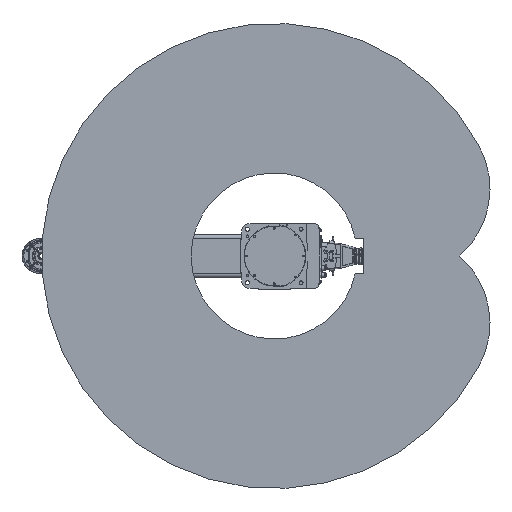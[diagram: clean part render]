
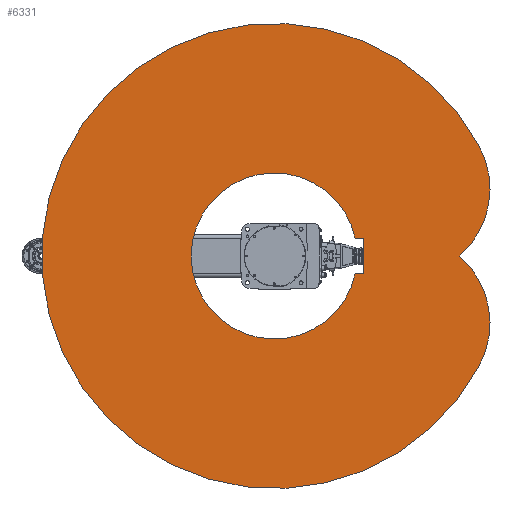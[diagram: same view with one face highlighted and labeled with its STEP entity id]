
A CAD part, front view. The second image highlights one B-rep face of the part: STEP entity #6331.
In plain terms, the highlighted planar face has unit normal (0, -1, 0).
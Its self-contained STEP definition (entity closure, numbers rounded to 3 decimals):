
#6331 = ADVANCED_FACE( '', ( #14298, #14299 ), #14300, .F. );
#14298 = FACE_OUTER_BOUND( '', #24019, .T. );
#14299 = FACE_BOUND( '', #24020, .T. );
#14300 = PLANE( '', #24021 );
#24019 = EDGE_LOOP( '', ( #42032, #42033, #42034 ) );
#24020 = EDGE_LOOP( '', ( #42035, #42036, #42037, #42038 ) );
#24021 = AXIS2_PLACEMENT_3D( '', #42039, #42040, #42041 );
#42032 = ORIENTED_EDGE( '', *, *, #55317, .F. );
#42033 = ORIENTED_EDGE( '', *, *, #57387, .F. );
#42034 = ORIENTED_EDGE( '', *, *, #52624, .F. );
#42035 = ORIENTED_EDGE( '', *, *, #57388, .T. );
#42036 = ORIENTED_EDGE( '', *, *, #55115, .T. );
#42037 = ORIENTED_EDGE( '', *, *, #57389, .T. );
#42038 = ORIENTED_EDGE( '', *, *, #57038, .T. );
#42039 = CARTESIAN_POINT( '', ( 93.894, 0., 176.59 ) );
#42040 = DIRECTION( '', ( 0., 1., 0. ) );
#42041 = DIRECTION( '', ( 0., 0., 1. ) );
#52624 = EDGE_CURVE( '', #62771, #62772, #62773, .T. );
#55115 = EDGE_CURVE( '', #66716, #66717, #66718, .T. );
#55317 = EDGE_CURVE( '', #67013, #62771, #67014, .T. );
#57038 = EDGE_CURVE( '', #69465, #69463, #69466, .T. );
#57387 = EDGE_CURVE( '', #62772, #67013, #69907, .T. );
#57388 = EDGE_CURVE( '', #69463, #66716, #69908, .T. );
#57389 = EDGE_CURVE( '', #66717, #69465, #69909, .T. );
#62771 = VERTEX_POINT( '', #77775 );
#62772 = VERTEX_POINT( '', #77776 );
#62773 = CIRCLE( '', #77777, 650. );
#66716 = VERTEX_POINT( '', #84795 );
#66717 = VERTEX_POINT( '', #84796 );
#66718 = LINE( '', #84797, #84798 );
#67013 = VERTEX_POINT( '', #85242 );
#67014 = CIRCLE( '', #85243, 250. );
#69463 = VERTEX_POINT( '', #89587 );
#69465 = VERTEX_POINT( '', #89590 );
#69466 = CIRCLE( '', #89591, 232. );
#69907 = CIRCLE( '', #90412, 250. );
#69908 = LINE( '', #90413, #90414 );
#69909 = LINE( '', #90415, #90416 );
#77775 = CARTESIAN_POINT( '', ( 305.157, 0., 573.916 ) );
#77776 = CARTESIAN_POINT( '', ( -305.157, 0., 573.916 ) );
#77777 = AXIS2_PLACEMENT_3D( '', #96491, #96492, #96493 );
#84795 = CARTESIAN_POINT( '', ( -50., 0., 250. ) );
#84796 = CARTESIAN_POINT( '', ( 50., 0., 250. ) );
#84797 = CARTESIAN_POINT( '', ( -50., 0., 250. ) );
#84798 = VECTOR( '', #99476, 1000. );
#85242 = CARTESIAN_POINT( '', ( 0., 0., 518.211 ) );
#85243 = AXIS2_PLACEMENT_3D( '', #99732, #99733, #99734 );
#89587 = CARTESIAN_POINT( '', ( -50., 0., 226.548 ) );
#89590 = CARTESIAN_POINT( '', ( 50., 0., 226.548 ) );
#89591 = AXIS2_PLACEMENT_3D( '', #101716, #101717, #101718 );
#90412 = AXIS2_PLACEMENT_3D( '', #102024, #102025, #102026 );
#90413 = CARTESIAN_POINT( '', ( -50., 0., 0. ) );
#90414 = VECTOR( '', #102027, 1000. );
#90415 = CARTESIAN_POINT( '', ( 50., 0., 250. ) );
#90416 = VECTOR( '', #102028, 1000. );
#96491 = CARTESIAN_POINT( '', ( 0., 0., 0. ) );
#96492 = DIRECTION( '', ( 0., 1., 0. ) );
#96493 = DIRECTION( '', ( 1., 0., 0. ) );
#99476 = DIRECTION( '', ( 1., 0., 0. ) );
#99732 = CARTESIAN_POINT( '', ( 187.789, 0., 353.179 ) );
#99733 = DIRECTION( '', ( 0., 1., 0. ) );
#99734 = DIRECTION( '', ( 1., 0., 0. ) );
#101716 = CARTESIAN_POINT( '', ( 0., 0., 0. ) );
#101717 = DIRECTION( '', ( 0., 1., 0. ) );
#101718 = DIRECTION( '', ( 1., 0., 0. ) );
#102024 = CARTESIAN_POINT( '', ( -187.789, 0., 353.179 ) );
#102025 = DIRECTION( '', ( 0., 1., 0. ) );
#102026 = DIRECTION( '', ( 1., 0., 0. ) );
#102027 = DIRECTION( '', ( 0., 0., 1. ) );
#102028 = DIRECTION( '', ( 0., 0., -1. ) );
